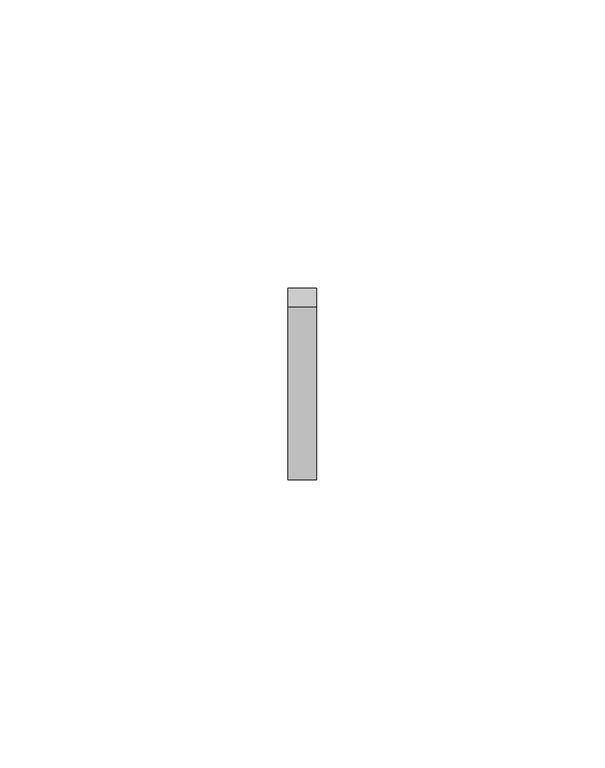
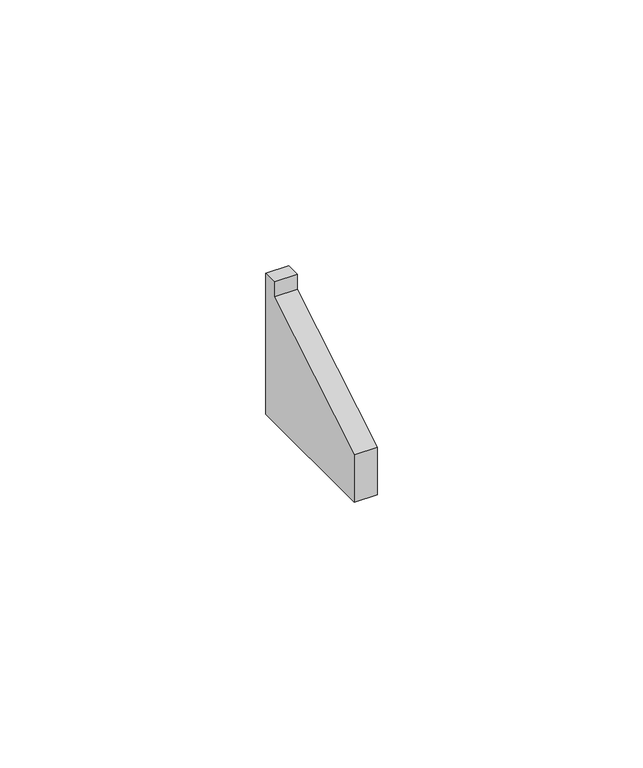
"""IFC4 building model written with IfcOpenShell, lengths in millimetres: proxy geometry, Odbojnik przyścienny K100 : Odbojnik przyścienny K100."""

from ifc_helpers import new_model, si_unit, frame, origin, place, context, project, spatial, polyline, outline, extrude, source, transform, mapped, element, save


def generic_models_a489ce9a(model_context):
    return source(origin(), model_context, "Body", "SweptSolid", [
        extrude(outline(polyline([(-32.25, -1.0), (-32.25, 9.8845755), (-2.25, 27.9845755), (-2.25, 31.42), (1.0, 31.42), (1.0, -1.0), (-32.25, -1.0)])), frame((-2.5, 0.0, 0.0), z_axis=(1.0, 0.0, 0.0), x_axis=(0.0, 1.0, 0.0)), (0.0, 0.0, 1.0), 5.0),
    ])


if __name__ == "__main__":
    model = new_model("IFC4")
    model_context = context("Model", 3, world=origin())
    ifc_project = project(units=[si_unit("LENGTHUNIT", "METRE", prefix="MILLI")], contexts=[model_context])
    site = spatial("IfcSite", under=ifc_project)
    building = spatial("IfcBuilding", under=site)
    placement = place(None, origin())
    generic_models_shape = generic_models_a489ce9a(model_context)
    element("IfcBuildingElementProxy", 1, Name="Odbojnik przyścienny K100 : Odbojnik przyścienny K100", ObjectType="Odbojnik przyścienny K100 : Odbojnik przyścienny K100", at=placement, inside=building, context=model_context, shape_type="MappedRepresentation", body=[
        mapped(generic_models_shape, transform((0.0, 0.0, 0.0), x_axis=(1.0, 0.0, 0.0), y_axis=(0.0, 1.0, 0.0), z_axis=(0.0, 0.0, 1.0))),
    ])
    save(model, "model.ifc")
